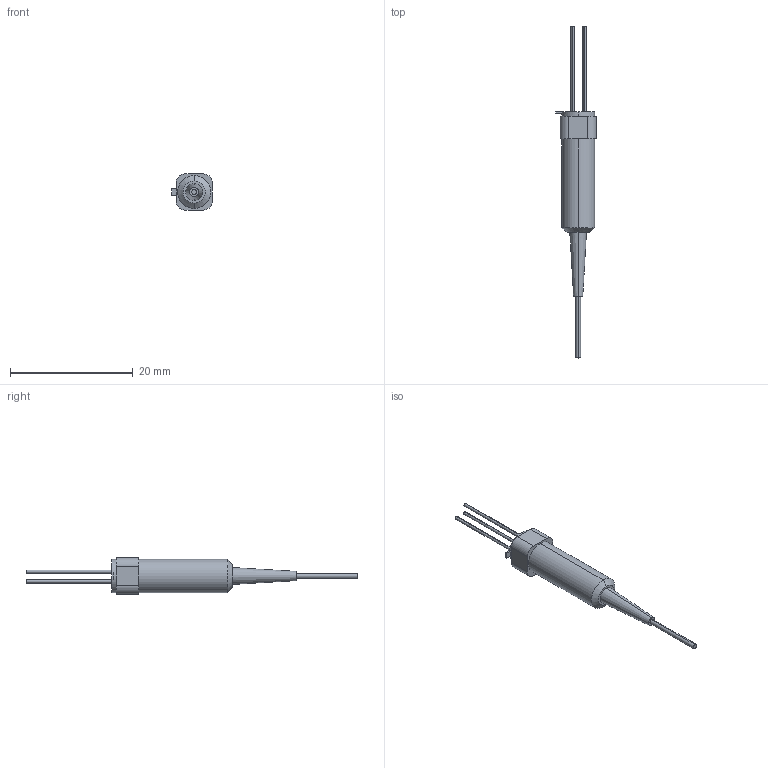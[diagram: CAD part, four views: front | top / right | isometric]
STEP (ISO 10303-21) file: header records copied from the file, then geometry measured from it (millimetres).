
FILE_DESCRIPTION (( 'STEP AP214' ), '1' );
FILE_NAME ('Fiber coupled InGaAs PD_old.STEP', '2025-10-23T20:58:51', ( 'Windows User' ), ( '' ), 'SwSTEP 2.0', 'SolidWorks 2023', '' );
FILE_SCHEMA (( 'AUTOMOTIVE_DESIGN' ));
Length unit declared in the file: millimetre
Products named in the file (1): Fiber coupled InGaAs PD_old
Bounding box: 6.6 x 54.1 x 5.9 mm (x, y, z)
Volume: 533 mm3; surface area: 567.3 mm2
Topology: 1 solids, 1 shells, 43 faces, 94 edges, 62 vertices
Faces by surface type: cylinder 20, plane 19, cone 4
Entity records: 1223 total; most frequent: DIRECTION 230, CARTESIAN_POINT 200, ORIENTED_EDGE 188, EDGE_CURVE 94, AXIS2_PLACEMENT_3D 92, VERTEX_POINT 62, EDGE_LOOP 52, CIRCLE 48
